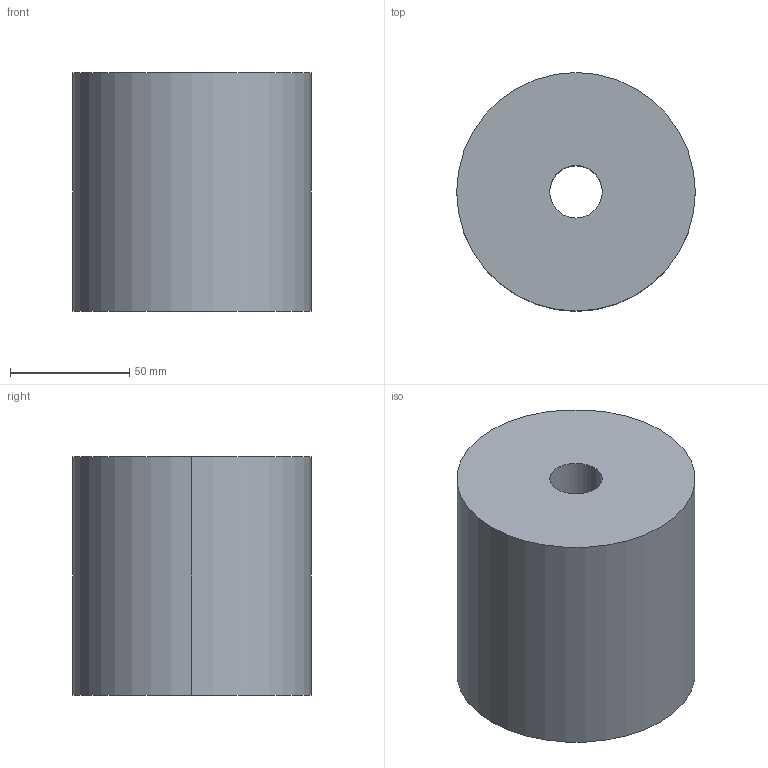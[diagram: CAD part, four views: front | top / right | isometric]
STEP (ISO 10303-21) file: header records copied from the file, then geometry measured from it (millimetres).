
FILE_DESCRIPTION(/* description */ (''),/* implementation_level */ '2;1');
FILE_NAME(/* name */ '3d_pa100-100_04896_r00.stp',/* time_stamp */ '2011-01-10T14:11:58+09:00',/* author */ ('MISUMI'),/* organization */ (''),/* preprocessor_version */ 'ST-DEVELOPER v11',/* originating_system */ 'UGS - NX 5.0',/* authorisation */ '');
FILE_SCHEMA (('CONFIG_CONTROL_DESIGN'));
Length unit declared in the file: millimetre
Products named in the file (1): 3d_pa100-100_04896_r00
Bounding box: 100 x 100 x 100 mm (x, y, z)
Volume: 747384.9 mm3; surface area: 53275.1 mm2
Topology: 1 solids, 1 shells, 6 faces, 12 edges, 8 vertices
Faces by surface type: cylinder 4, plane 2
Entity records: 254 total; most frequent: DIRECTION 34, CARTESIAN_POINT 27, ORIENTED_EDGE 24, AXIS2_PLACEMENT_3D 15, EDGE_CURVE 12, EDGE_LOOP 8, VERTEX_POINT 8, CIRCLE 8
